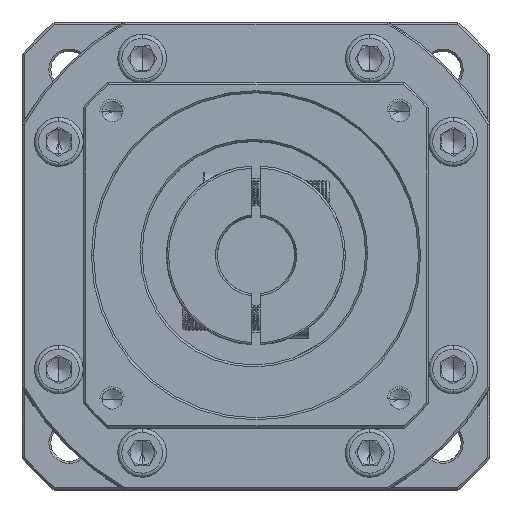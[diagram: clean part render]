
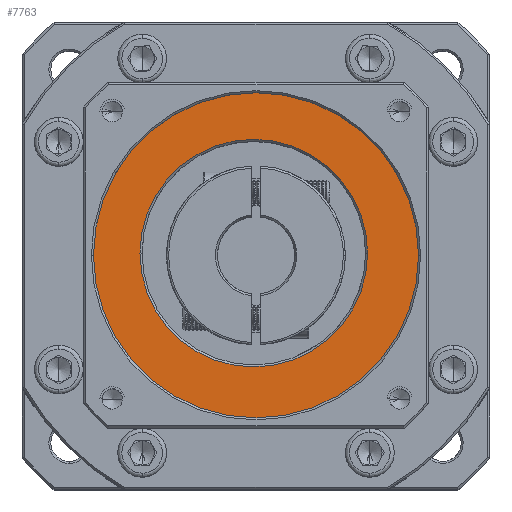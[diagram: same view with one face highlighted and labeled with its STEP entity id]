
A CAD part, top view. The second image highlights one B-rep face of the part: STEP entity #7763.
In plain terms, the highlighted planar face has unit normal (0, 0, 1).
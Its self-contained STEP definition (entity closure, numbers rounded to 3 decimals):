
#1170 = CIRCLE ( 'NONE', #44881, 40. ) ;
#1289 = EDGE_LOOP ( 'NONE', ( #88323, #6724 ) ) ;
#3466 = AXIS2_PLACEMENT_3D ( 'NONE', #50184, #115524, #59586 ) ;
#4414 = CIRCLE ( 'NONE', #96824, 40. ) ;
#5845 = DIRECTION ( 'NONE',  ( 1., 0., 0. ) ) ;
#6724 = ORIENTED_EDGE ( 'NONE', *, *, #105872, .T. ) ;
#7763 = ADVANCED_FACE ( 'NONE', ( #117555, #23933 ), #59180, .T. ) ;
#8109 = DIRECTION ( 'NONE',  ( 1., 0., 0. ) ) ;
#11373 = VERTEX_POINT ( 'NONE', #37655 ) ;
#17831 = CIRCLE ( 'NONE', #22767, 28. ) ;
#22573 = VERTEX_POINT ( 'NONE', #99791 ) ;
#22767 = AXIS2_PLACEMENT_3D ( 'NONE', #97314, #41319, #106733 ) ;
#23933 = FACE_BOUND ( 'NONE', #56718, .T. ) ;
#37127 = AXIS2_PLACEMENT_3D ( 'NONE', #117901, #62005, #5845 ) ;
#37655 = CARTESIAN_POINT ( 'NONE',  ( -124.026, 37.608, 25.809 ) ) ;
#41319 = DIRECTION ( 'NONE',  ( 0., 0., -1. ) ) ;
#44881 = AXIS2_PLACEMENT_3D ( 'NONE', #120185, #64284, #8109 ) ;
#49894 = CARTESIAN_POINT ( 'NONE',  ( -84.026, 37.608, 25.809 ) ) ;
#50184 = CARTESIAN_POINT ( 'NONE',  ( -84.026, 37.608, 25.809 ) ) ;
#52126 = CIRCLE ( 'NONE', #37127, 28. ) ;
#56147 = CARTESIAN_POINT ( 'NONE',  ( -112.567, 38.142, 25.809 ) ) ;
#56718 = EDGE_LOOP ( 'NONE', ( #62782, #79150 ) ) ;
#59180 = PLANE ( 'NONE',  #3466 ) ;
#59311 = DIRECTION ( 'NONE',  ( 1., 0., 0. ) ) ;
#59586 = DIRECTION ( 'NONE',  ( 1., 0., 0. ) ) ;
#62005 = DIRECTION ( 'NONE',  ( 0., 0., -1. ) ) ;
#62782 = ORIENTED_EDGE ( 'NONE', *, *, #106911, .T. ) ;
#64284 = DIRECTION ( 'NONE',  ( 0., 0., 1. ) ) ;
#76849 = VERTEX_POINT ( 'NONE', #85980 ) ;
#79150 = ORIENTED_EDGE ( 'NONE', *, *, #99234, .T. ) ;
#84569 = VERTEX_POINT ( 'NONE', #56147 ) ;
#85980 = CARTESIAN_POINT ( 'NONE',  ( -56.567, 38.142, 25.809 ) ) ;
#88323 = ORIENTED_EDGE ( 'NONE', *, *, #111671, .T. ) ;
#96824 = AXIS2_PLACEMENT_3D ( 'NONE', #49894, #115261, #59311 ) ;
#97314 = CARTESIAN_POINT ( 'NONE',  ( -84.567, 38.142, 25.809 ) ) ;
#99234 = EDGE_CURVE ( 'NONE', #84569, #76849, #17831, .T. ) ;
#99791 = CARTESIAN_POINT ( 'NONE',  ( -44.026, 37.608, 25.809 ) ) ;
#105872 = EDGE_CURVE ( 'NONE', #11373, #22573, #1170, .T. ) ;
#106733 = DIRECTION ( 'NONE',  ( 1., 0., 0. ) ) ;
#106911 = EDGE_CURVE ( 'NONE', #76849, #84569, #52126, .T. ) ;
#111671 = EDGE_CURVE ( 'NONE', #22573, #11373, #4414, .T. ) ;
#115261 = DIRECTION ( 'NONE',  ( 0., 0., 1. ) ) ;
#115524 = DIRECTION ( 'NONE',  ( 0., 0., 1. ) ) ;
#117555 = FACE_OUTER_BOUND ( 'NONE', #1289, .T. ) ;
#117901 = CARTESIAN_POINT ( 'NONE',  ( -84.567, 38.142, 25.809 ) ) ;
#120185 = CARTESIAN_POINT ( 'NONE',  ( -84.026, 37.608, 25.809 ) ) ;
